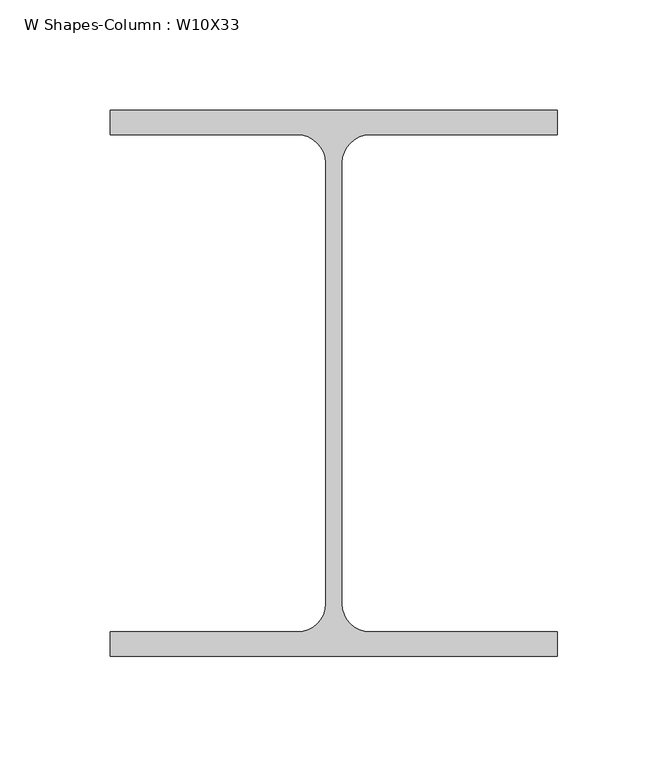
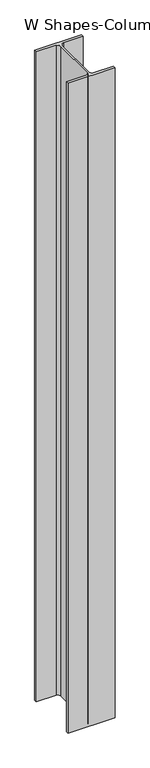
"""IFC4 building model written with IfcOpenShell, lengths in millimetres: column geometry, W Shapes-Column : W10X33."""

from ifc_helpers import new_model, si_unit, point, frame, frame_2d, origin, place, context, project, spatial, polyline, circle_curve, trimmed, segment, composite_curve, outline, extrude, source, transform, mapped, element, save


def w_shapes_column_w10x33_a9fcfa0c(model_context):
    return source(origin(), model_context, "Body", "SweptSolid", [
        extrude(outline(composite_curve([segment(polyline([(101.092, 123.571), (101.092, 112.522), (16.383, 112.522)]), True, "CONTINUOUS"), segment(trimmed(circle_curve(frame_2d((16.383, 99.822)), 12.7), [point((16.383, 112.522))], [point((3.683, 99.822))], True, "CARTESIAN"), True, "CONTINUOUS"), segment(polyline([(3.683, 99.822), (3.683, -99.822)]), True, "CONTINUOUS"), segment(trimmed(circle_curve(frame_2d((16.383, -99.822)), 12.7), [point((3.683, -99.822))], [point((16.383, -112.522))], True, "CARTESIAN"), True, "CONTINUOUS"), segment(polyline([(16.383, -112.522), (101.092, -112.522), (101.092, -123.571), (-101.092, -123.571), (-101.092, -112.522), (-16.383, -112.522)]), True, "CONTINUOUS"), segment(trimmed(circle_curve(frame_2d((-16.383, -99.822)), 12.7), [point((-16.383, -112.522))], [point((-3.683, -99.822))], True, "CARTESIAN"), True, "CONTINUOUS"), segment(polyline([(-3.683, -99.822), (-3.683, 99.822)]), True, "CONTINUOUS"), segment(trimmed(circle_curve(frame_2d((-16.383, 99.822)), 12.7), [point((-3.683, 99.822))], [point((-16.383, 112.522))], True, "CARTESIAN"), True, "CONTINUOUS"), segment(polyline([(-16.383, 112.522), (-101.092, 112.522), (-101.092, 123.571), (101.092, 123.571)]), True, "CONTINUOUS")], self_intersect=False)), frame((0.0, 0.0, 13411.2), z_axis=(0.0, 0.0, 1.0), x_axis=(1.0, 0.0, 0.0)), (0.0, 0.0, 1.0), 2952.9668493),
    ])


if __name__ == "__main__":
    model = new_model("IFC4")
    model_context = context("Model", 3, world=origin())
    ifc_project = project(units=[si_unit("LENGTHUNIT", "METRE", prefix="MILLI")], contexts=[model_context])
    site = spatial("IfcSite", under=ifc_project)
    building = spatial("IfcBuilding", under=site)
    placement = place(None, origin())
    w_shapes_column_w10x33_shape = w_shapes_column_w10x33_a9fcfa0c(model_context)
    element("IfcColumn", 1, ObjectType="W Shapes-Column : W10X33", at=placement, inside=building, context=model_context, shape_type="MappedRepresentation", body=[
        mapped(w_shapes_column_w10x33_shape, transform((0.0, 0.0, 0.0), x_axis=(1.0, 0.0, 0.0), y_axis=(0.0, 1.0, 0.0), z_axis=(0.0, 0.0, 1.0))),
    ])
    save(model, "model.ifc")
